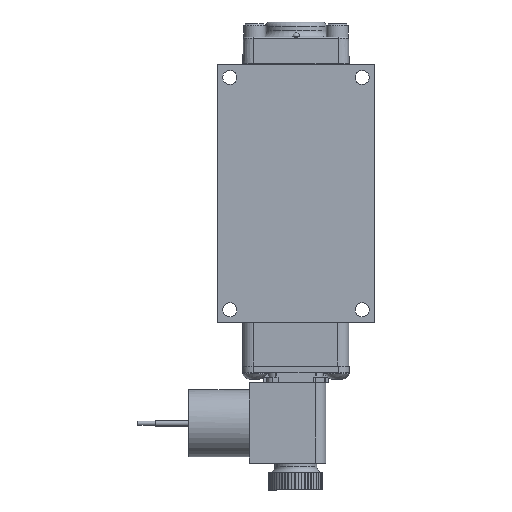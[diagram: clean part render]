
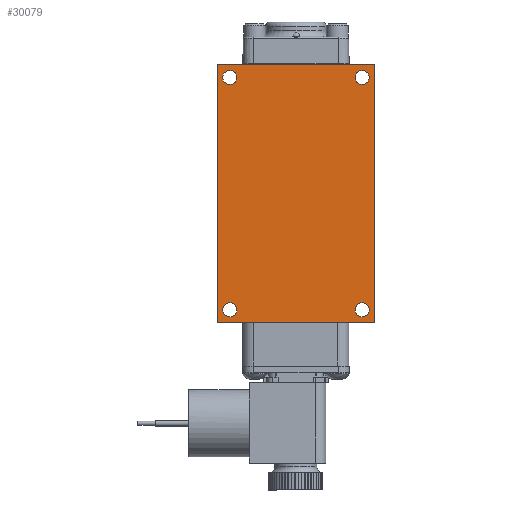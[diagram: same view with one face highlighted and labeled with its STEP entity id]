
A CAD part, front view. The second image highlights one B-rep face of the part: STEP entity #30079.
In plain terms, the highlighted planar face has unit normal (0, -1, 0).
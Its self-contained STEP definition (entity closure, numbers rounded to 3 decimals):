
#852=LINE('',#48643,#2919);
#873=LINE('',#48763,#2940);
#1083=LINE('',#49901,#3150);
#1325=LINE('',#51321,#3392);
#2919=VECTOR('',#37291,5.715);
#2940=VECTOR('',#37394,5.715);
#3150=VECTOR('',#37790,9.421);
#3392=VECTOR('',#38182,9.421);
#5753=FACE_BOUND('',#9287,.T.);
#5754=FACE_BOUND('',#9288,.T.);
#5755=FACE_BOUND('',#9289,.T.);
#5756=FACE_BOUND('',#9290,.T.);
#7248=FACE_OUTER_BOUND('',#9286,.T.);
#9286=EDGE_LOOP('',(#23068,#23069,#23070,#23071));
#9287=EDGE_LOOP('',(#23072));
#9288=EDGE_LOOP('',(#23073));
#9289=EDGE_LOOP('',(#23074));
#9290=EDGE_LOOP('',(#23075));
#10984=CIRCLE('',#32567,0.258);
#10985=CIRCLE('',#32569,0.258);
#10986=CIRCLE('',#32571,0.258);
#10987=CIRCLE('',#32573,0.258);
#12634=VERTEX_POINT('',#48640);
#12635=VERTEX_POINT('',#48642);
#12692=VERTEX_POINT('',#48760);
#12693=VERTEX_POINT('',#48762);
#13208=VERTEX_POINT('',#52072);
#13209=VERTEX_POINT('',#52075);
#13210=VERTEX_POINT('',#52078);
#13211=VERTEX_POINT('',#52081);
#15925=EDGE_CURVE('',#12634,#12635,#852,.T.);
#15984=EDGE_CURVE('',#12692,#12693,#873,.T.);
#16273=EDGE_CURVE('',#12693,#12634,#1083,.T.);
#16609=EDGE_CURVE('',#12635,#12692,#1325,.T.);
#16726=EDGE_CURVE('',#13208,#13208,#10984,.T.);
#16727=EDGE_CURVE('',#13209,#13209,#10985,.T.);
#16728=EDGE_CURVE('',#13210,#13210,#10986,.T.);
#16729=EDGE_CURVE('',#13211,#13211,#10987,.T.);
#23068=ORIENTED_EDGE('',*,*,#16273,.F.);
#23069=ORIENTED_EDGE('',*,*,#15984,.F.);
#23070=ORIENTED_EDGE('',*,*,#16609,.F.);
#23071=ORIENTED_EDGE('',*,*,#15925,.F.);
#23072=ORIENTED_EDGE('',*,*,#16726,.T.);
#23073=ORIENTED_EDGE('',*,*,#16727,.T.);
#23074=ORIENTED_EDGE('',*,*,#16728,.T.);
#23075=ORIENTED_EDGE('',*,*,#16729,.T.);
#26928=PLANE('',#32596);
#30079=ADVANCED_FACE('',(#7248,#5753,#5754,#5755,#5756),#26928,.F.);
#32567=AXIS2_PLACEMENT_3D('',#52073,#38481,#38482);
#32569=AXIS2_PLACEMENT_3D('',#52076,#38485,#38486);
#32571=AXIS2_PLACEMENT_3D('',#52079,#38489,#38490);
#32573=AXIS2_PLACEMENT_3D('',#52082,#38493,#38494);
#32596=AXIS2_PLACEMENT_3D('',#52113,#38539,#38540);
#37291=DIRECTION('',(1.,0.,0.));
#37394=DIRECTION('',(-1.,0.,0.));
#37790=DIRECTION('',(0.,0.,1.));
#38182=DIRECTION('',(0.,0.,-1.));
#38481=DIRECTION('center_axis',(0.,1.,0.));
#38482=DIRECTION('ref_axis',(-1.,0.,0.));
#38485=DIRECTION('center_axis',(0.,1.,0.));
#38486=DIRECTION('ref_axis',(-1.,0.,0.));
#38489=DIRECTION('center_axis',(0.,1.,0.));
#38490=DIRECTION('ref_axis',(-1.,0.,0.));
#38493=DIRECTION('center_axis',(0.,1.,0.));
#38494=DIRECTION('ref_axis',(-1.,0.,0.));
#38539=DIRECTION('center_axis',(0.,1.,0.));
#38540=DIRECTION('ref_axis',(0.,0.,1.));
#48640=CARTESIAN_POINT('',(-2.858,-1.636,4.71));
#48642=CARTESIAN_POINT('',(2.858,-1.636,4.71));
#48643=CARTESIAN_POINT('',(-2.858,-1.636,4.71));
#48760=CARTESIAN_POINT('',(2.858,-1.636,-4.71));
#48762=CARTESIAN_POINT('',(-2.858,-1.636,-4.71));
#48763=CARTESIAN_POINT('',(2.858,-1.636,-4.71));
#49901=CARTESIAN_POINT('',(-2.858,-1.636,-4.71));
#51321=CARTESIAN_POINT('',(2.858,-1.636,4.71));
#52072=CARTESIAN_POINT('',(-2.163,-1.636,-4.247));
#52073=CARTESIAN_POINT('Origin',(-2.421,-1.636,-4.247));
#52075=CARTESIAN_POINT('',(-2.163,-1.636,4.247));
#52076=CARTESIAN_POINT('Origin',(-2.421,-1.636,4.247));
#52078=CARTESIAN_POINT('',(2.678,-1.636,-4.247));
#52079=CARTESIAN_POINT('Origin',(2.421,-1.636,-4.247));
#52081=CARTESIAN_POINT('',(2.678,-1.636,4.247));
#52082=CARTESIAN_POINT('Origin',(2.421,-1.636,4.247));
#52113=CARTESIAN_POINT('Origin',(0.,-1.636,0.));
